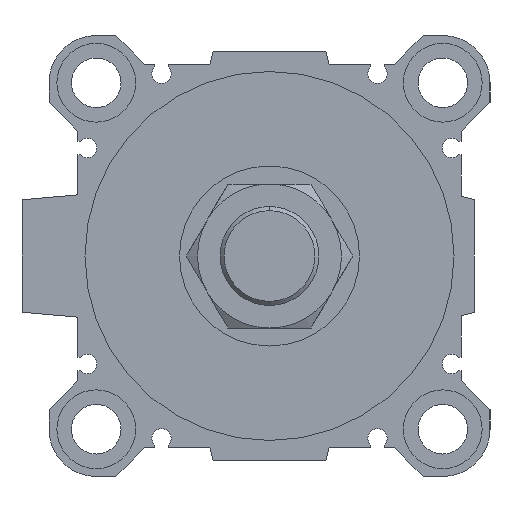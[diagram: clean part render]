
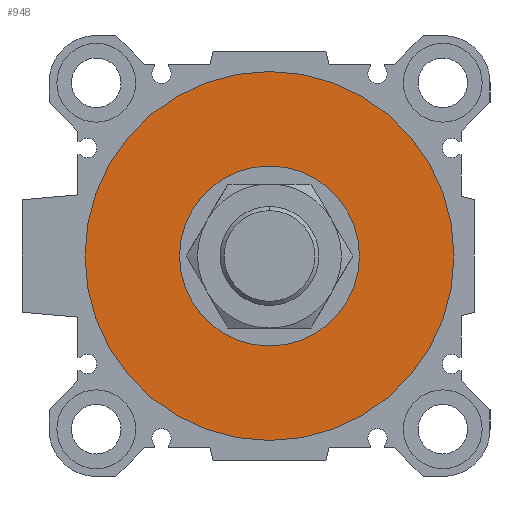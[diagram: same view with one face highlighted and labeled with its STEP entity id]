
A CAD part, left-side view. The second image highlights one B-rep face of the part: STEP entity #948.
In plain terms, the highlighted planar face has unit normal (-1, 0, 0).
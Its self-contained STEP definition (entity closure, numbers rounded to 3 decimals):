
#78 = CARTESIAN_POINT ( 'NONE',  ( 5., 0., 0. ) ) ;
#126 = EDGE_CURVE ( 'NONE', #4074, #3726, #700, .T. ) ;
#377 = CIRCLE ( 'NONE', #5390, 41. ) ;
#551 = CIRCLE ( 'NONE', #6900, 41. ) ;
#700 = CIRCLE ( 'NONE', #4255, 20. ) ;
#744 = AXIS2_PLACEMENT_3D ( 'NONE', #4568, #2198, #3993 ) ;
#805 = DIRECTION ( 'NONE',  ( 0., 0., -1. ) ) ;
#948 = ADVANCED_FACE ( 'NONE', ( #3910, #6919 ), #7530, .F. ) ;
#1157 = DIRECTION ( 'NONE',  ( 1., 0., 0. ) ) ;
#1198 = CARTESIAN_POINT ( 'NONE',  ( 5., 0., 0. ) ) ;
#1484 = CIRCLE ( 'NONE', #744, 20. ) ;
#1542 = VERTEX_POINT ( 'NONE', #6021 ) ;
#1934 = CARTESIAN_POINT ( 'NONE',  ( 5., 0., 0. ) ) ;
#1994 = EDGE_LOOP ( 'NONE', ( #6459, #2321 ) ) ;
#2049 = CARTESIAN_POINT ( 'NONE',  ( 5., 0., 20. ) ) ;
#2198 = DIRECTION ( 'NONE',  ( 1., 0., 0. ) ) ;
#2300 = DIRECTION ( 'NONE',  ( 1., 0., 0. ) ) ;
#2321 = ORIENTED_EDGE ( 'NONE', *, *, #3579, .T. ) ;
#3579 = EDGE_CURVE ( 'NONE', #3726, #4074, #1484, .T. ) ;
#3649 = EDGE_CURVE ( 'NONE', #1542, #7268, #377, .T. ) ;
#3726 = VERTEX_POINT ( 'NONE', #7192 ) ;
#3758 = DIRECTION ( 'NONE',  ( 1., 0., 0. ) ) ;
#3855 = ORIENTED_EDGE ( 'NONE', *, *, #3649, .F. ) ;
#3910 = FACE_OUTER_BOUND ( 'NONE', #5971, .T. ) ;
#3940 = AXIS2_PLACEMENT_3D ( 'NONE', #5200, #2300, #7377 ) ;
#3993 = DIRECTION ( 'NONE',  ( 0., 0., -1. ) ) ;
#4074 = VERTEX_POINT ( 'NONE', #2049 ) ;
#4160 = EDGE_CURVE ( 'NONE', #7268, #1542, #551, .T. ) ;
#4255 = AXIS2_PLACEMENT_3D ( 'NONE', #78, #3758, #805 ) ;
#4273 = DIRECTION ( 'NONE',  ( 1., 0., 0. ) ) ;
#4568 = CARTESIAN_POINT ( 'NONE',  ( 5., 0., 0. ) ) ;
#4718 = DIRECTION ( 'NONE',  ( 0., 0., -1. ) ) ;
#5200 = CARTESIAN_POINT ( 'NONE',  ( 5., 0., 0. ) ) ;
#5390 = AXIS2_PLACEMENT_3D ( 'NONE', #1198, #1157, #4718 ) ;
#5971 = EDGE_LOOP ( 'NONE', ( #6107, #3855 ) ) ;
#6021 = CARTESIAN_POINT ( 'NONE',  ( 5., 0., -41. ) ) ;
#6107 = ORIENTED_EDGE ( 'NONE', *, *, #4160, .F. ) ;
#6459 = ORIENTED_EDGE ( 'NONE', *, *, #126, .T. ) ;
#6593 = DIRECTION ( 'NONE',  ( 0., 0., -1. ) ) ;
#6900 = AXIS2_PLACEMENT_3D ( 'NONE', #1934, #4273, #6593 ) ;
#6919 = FACE_BOUND ( 'NONE', #1994, .T. ) ;
#7097 = CARTESIAN_POINT ( 'NONE',  ( 5., 0., 41. ) ) ;
#7192 = CARTESIAN_POINT ( 'NONE',  ( 5., 0., -20. ) ) ;
#7268 = VERTEX_POINT ( 'NONE', #7097 ) ;
#7377 = DIRECTION ( 'NONE',  ( 0., 1., 0. ) ) ;
#7530 = PLANE ( 'NONE',  #3940 ) ;
